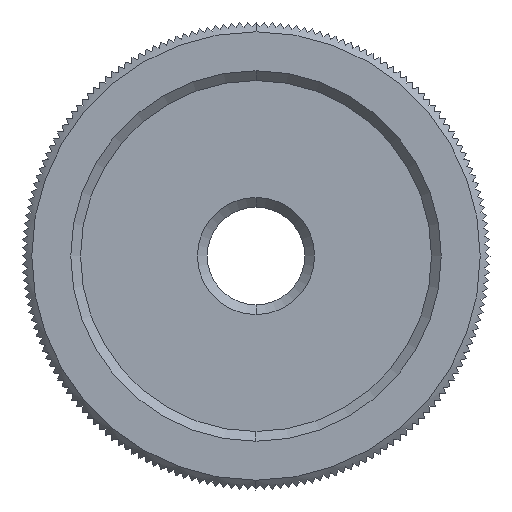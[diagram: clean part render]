
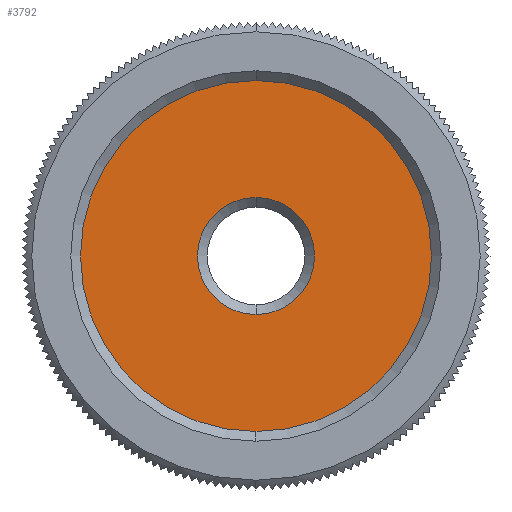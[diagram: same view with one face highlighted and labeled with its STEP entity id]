
A CAD part, left-side view. The second image highlights one B-rep face of the part: STEP entity #3792.
In plain terms, the highlighted planar face has unit normal (-1, 0, 0).
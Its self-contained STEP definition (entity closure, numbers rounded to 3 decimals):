
#3717 = EDGE_LOOP ( 'NONE', ( #3770, #3771 ) ) ;
#3770 = ORIENTED_EDGE ( 'NONE', *, *, #4801, .T. ) ;
#3771 = ORIENTED_EDGE ( 'NONE', *, *, #3772, .T. ) ;
#3772 = EDGE_CURVE ( 'NONE', #4807, #4802, #9640, .T. ) ;
#3773 = EDGE_LOOP ( 'NONE', ( #3774, #3776 ) ) ;
#3774 = ORIENTED_EDGE ( 'NONE', *, *, #3775, .T. ) ;
#3775 = EDGE_CURVE ( 'NONE', #4792, #4875, #9635, .T. ) ;
#3776 = ORIENTED_EDGE ( 'NONE', *, *, #4799, .T. ) ;
#3792 = ADVANCED_FACE ( 'NONE', ( #9671, #9667 ), #9666, .T. ) ;
#4792 = VERTEX_POINT ( 'NONE', #12028 ) ;
#4799 = EDGE_CURVE ( 'NONE', #4875, #4792, #12060, .T. ) ;
#4801 = EDGE_CURVE ( 'NONE', #4802, #4807, #12055, .T. ) ;
#4802 = VERTEX_POINT ( 'NONE', #12103 ) ;
#4807 = VERTEX_POINT ( 'NONE', #12096 ) ;
#4875 = VERTEX_POINT ( 'NONE', #12223 ) ;
#9631 = DIRECTION ( 'NONE',  ( 0., 0., 1. ) ) ;
#9632 = DIRECTION ( 'NONE',  ( -1., 0., 0. ) ) ;
#9633 = CARTESIAN_POINT ( 'NONE',  ( -4., 0., 0. ) ) ;
#9634 = AXIS2_PLACEMENT_3D ( 'NONE', #9633, #9632, #9631 ) ;
#9635 = CIRCLE ( 'NONE', #9634, 9. ) ;
#9636 = DIRECTION ( 'NONE',  ( 0., 0., 1. ) ) ;
#9637 = DIRECTION ( 'NONE',  ( 1., 0., 0. ) ) ;
#9638 = CARTESIAN_POINT ( 'NONE',  ( -4., 0., 0. ) ) ;
#9639 = AXIS2_PLACEMENT_3D ( 'NONE', #9638, #9637, #9636 ) ;
#9640 = CIRCLE ( 'NONE', #9639, 3. ) ;
#9662 = DIRECTION ( 'NONE',  ( 0., 0., 1. ) ) ;
#9663 = DIRECTION ( 'NONE',  ( -1., 0., 0. ) ) ;
#9664 = CARTESIAN_POINT ( 'NONE',  ( -4., 0., 0. ) ) ;
#9665 = AXIS2_PLACEMENT_3D ( 'NONE', #9664, #9663, #9662 ) ;
#9666 = PLANE ( 'NONE',  #9665 ) ;
#9667 = FACE_OUTER_BOUND ( 'NONE', #3773, .T. ) ;
#9671 = FACE_BOUND ( 'NONE', #3717, .T. ) ;
#12028 = CARTESIAN_POINT ( 'NONE',  ( -4., 0., 9. ) ) ;
#12051 = DIRECTION ( 'NONE',  ( 0., 0., 1. ) ) ;
#12052 = DIRECTION ( 'NONE',  ( 1., 0., 0. ) ) ;
#12053 = CARTESIAN_POINT ( 'NONE',  ( -4., 0., 0. ) ) ;
#12054 = AXIS2_PLACEMENT_3D ( 'NONE', #12053, #12052, #12051 ) ;
#12055 = CIRCLE ( 'NONE', #12054, 3. ) ;
#12056 = DIRECTION ( 'NONE',  ( 0., 0., 1. ) ) ;
#12057 = DIRECTION ( 'NONE',  ( -1., 0., 0. ) ) ;
#12058 = CARTESIAN_POINT ( 'NONE',  ( -4., 0., 0. ) ) ;
#12059 = AXIS2_PLACEMENT_3D ( 'NONE', #12058, #12057, #12056 ) ;
#12060 = CIRCLE ( 'NONE', #12059, 9. ) ;
#12096 = CARTESIAN_POINT ( 'NONE',  ( -4., 0., -3. ) ) ;
#12103 = CARTESIAN_POINT ( 'NONE',  ( -4., 0., 3. ) ) ;
#12223 = CARTESIAN_POINT ( 'NONE',  ( -4., 0., -9. ) ) ;
